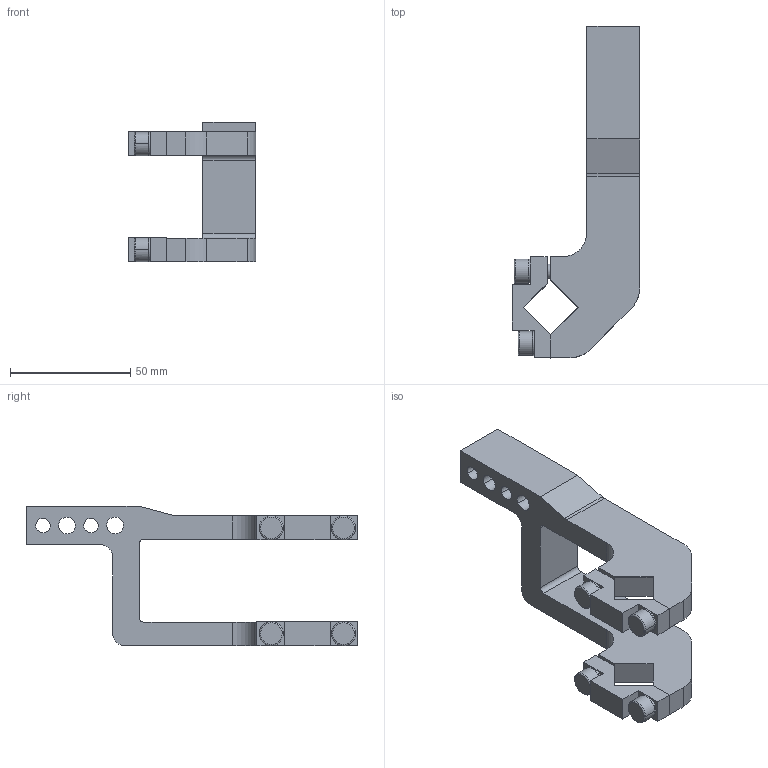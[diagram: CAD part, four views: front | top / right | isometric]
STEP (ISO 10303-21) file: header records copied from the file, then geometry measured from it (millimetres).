
FILE_DESCRIPTION(('CATIA V5 STEP Exchange'),'2;1');
FILE_NAME('E:\clampact\CLAMPACT\clampact\catalog\Clampact Arm\Arm 3D\Clampact Arm\arm_K40_15_A12_Clampact.stp','2022-12-06T07:39:02+00:00',('none'),('none'),'CATIA Version 5 Release 19 SP 6 (IN-10)','CATIA V5 STEP AP203','none');
FILE_SCHEMA(('CONFIG_CONTROL_DESIGN'));
Length unit declared in the file: millimetre
Products named in the file (1): K40_15_A12_Clampact_柯莱普
Bounding box: 53 x 138 x 58 mm (x, y, z)
Volume: 76559.8 mm3; surface area: 26148.2 mm2
Topology: 1 solids, 5 shells, 163 faces, 409 edges, 256 vertices
Faces by surface type: plane 80, cylinder 51, cone 20, torus 12
Entity records: 4685 total; most frequent: CARTESIAN_POINT 997, ORIENTED_EDGE 802, DIRECTION 621, EDGE_CURVE 401, AXIS2_PLACEMENT_3D 256, VERTEX_POINT 256, VECTOR 243, LINE 243
